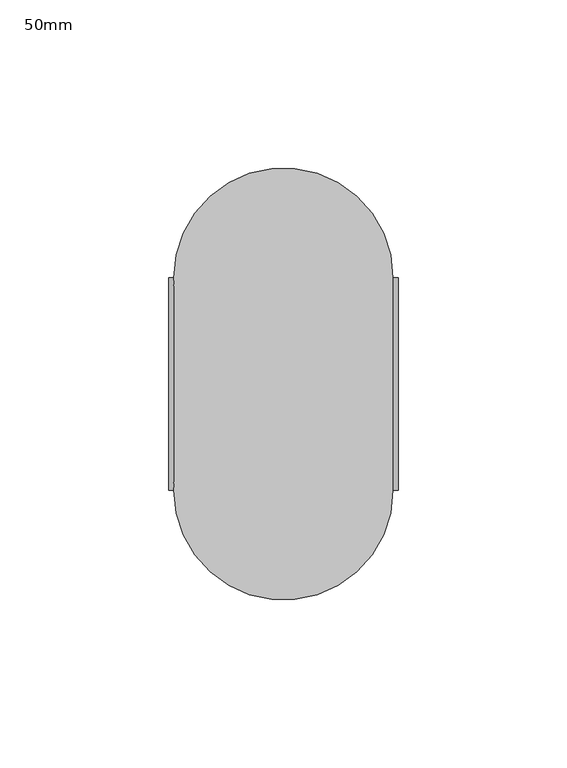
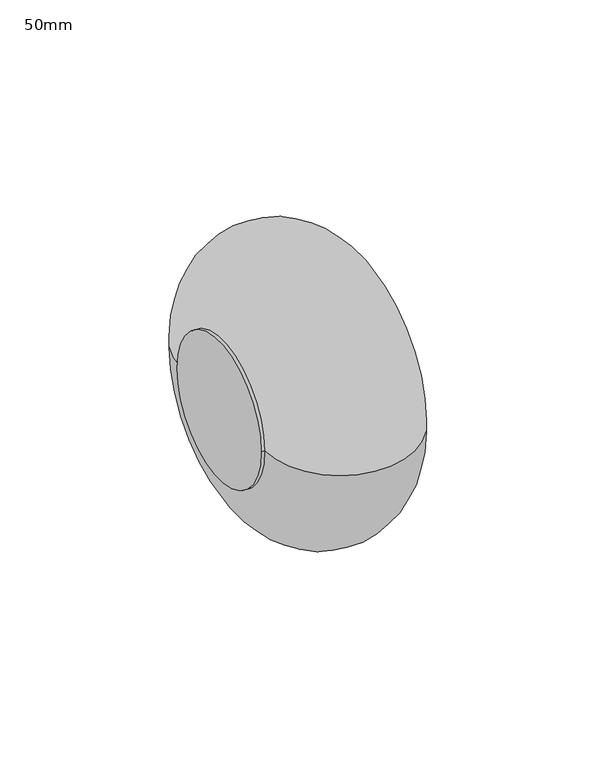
"""IFC4 building model written with IfcOpenShell, lengths in millimetres: pipe fitting geometry, PipeAccessory_HTA_CPVC_LinearExpansionCompensatorPN16 : 50mm."""

import ifcopenshell
import ifcopenshell.guid

model = None  # the IFC model being written
_history = None  # IfcOwnerHistory: only IFC2X3 demands one
_inside = {}  # id of a spatial element -> (the spatial element, [elements in it])
_under = {}  # id of a project, library or spatial element -> (it, [spatial elements below it])
_declared = {}  # id of a project -> (the project, [libraries it declares])
_typed = {}  # id of a type object -> (the type object, [elements of that type])
_made_of = {}  # id of a material, layer set ... -> (it, [elements and type objects made of it])


def new_model(schema):
    """Start an empty IFC model of exactly this schema.

    Asked for "IFC4X3", IfcOpenShell would pick the latest addendum, in which some entities
    have other attributes; the version numbers below select the first issue.
    IFC2X3 requires an IfcOwnerHistory on every rooted entity: one is made here for all.
    """
    global model, _history
    if schema == "IFC4X3":
        model = ifcopenshell.file(schema_version=(4, 3, 0, 0))
    else:
        model = ifcopenshell.file(schema=schema)
    _inside.clear()
    _under.clear()
    _declared.clear()
    _typed.clear()
    _made_of.clear()
    _history = None
    if model.schema == "IFC2X3":
        org = make("IfcOrganization", Name="unknown")
        user = make(
            "IfcPersonAndOrganization",
            ThePerson=make("IfcPerson", FamilyName="unknown"),
            TheOrganization=org,
        )
        app = make(
            "IfcApplication",
            ApplicationDeveloper=org,
            Version="unknown",
            ApplicationFullName="unknown",
            ApplicationIdentifier="unknown",
        )
        _history = make(
            "IfcOwnerHistory",
            OwningUser=user,
            OwningApplication=app,
            ChangeAction="ADDED",
            CreationDate=0,
        )
    return model


def make(cls, **values):
    """One entity of the class cls with the attributes given. An attribute that is None is left unset."""
    return model.create_entity(
        cls, **{name: value for name, value in values.items() if value is not None}
    )


def rooted(cls, **values):
    """An entity with a GlobalId (a new one), such as an element, a storey or a relation."""
    return make(cls, GlobalId=ifcopenshell.guid.new(), OwnerHistory=_history, **values)


def si_unit(unit_type, name, prefix=None):
    """IfcSIUnit, for example si_unit("LENGTHUNIT", "METRE", prefix="MILLI")."""
    return make("IfcSIUnit", UnitType=unit_type, Prefix=prefix, Name=name)


def assignment(units):
    """IfcUnitAssignment: the units of a project."""
    return None if units is None else make("IfcUnitAssignment", Units=units)


def point(xyz):
    """IfcCartesianPoint."""
    return None if xyz is None else make("IfcCartesianPoint", Coordinates=xyz)


def direction(xyz):
    """IfcDirection."""
    return None if xyz is None else make("IfcDirection", DirectionRatios=xyz)


def frame(location, z_axis=None, x_axis=None):
    """IfcAxis2Placement3D, a coordinate frame: its origin and axes. An axis left out is left unset."""
    return make(
        "IfcAxis2Placement3D",
        Location=point(location),
        Axis=direction(z_axis),
        RefDirection=direction(x_axis),
    )


def frame_2d(location, x_axis=None):
    """IfcAxis2Placement2D, a coordinate frame in the plane: its origin and x axis."""
    return make(
        "IfcAxis2Placement2D", Location=point(location), RefDirection=direction(x_axis)
    )


def origin():
    """The frame at (0, 0, 0) with its axes left unset."""
    return frame((0.0, 0.0, 0.0))


def origin_2d():
    """The frame at (0, 0) in the plane with its x axis left unset."""
    return frame_2d((0.0, 0.0))


def place(relative_to, where):
    """IfcLocalPlacement: puts the frame where relative to a parent placement (None: the world)."""
    return make(
        "IfcLocalPlacement", PlacementRelTo=relative_to, RelativePlacement=where
    )


def context(
    kind, dimensions, precision=None, world=None, true_north=None, identifier=None
):
    """IfcGeometricRepresentationContext, for example the 3D "Model" context."""
    return make(
        "IfcGeometricRepresentationContext",
        ContextIdentifier=identifier,
        ContextType=kind,
        CoordinateSpaceDimension=dimensions,
        Precision=precision,
        WorldCoordinateSystem=world,
        TrueNorth=true_north,
    )


def project(units=None, contexts=None):
    """IfcProject with its units and contexts."""
    return rooted(
        "IfcProject",
        Name="project",
        RepresentationContexts=contexts,
        UnitsInContext=assignment(units),
    )


def spatial(cls, under=None, at=None, **own):
    """A site, building, storey or space (cls), placed at a placement, below another one or the project."""
    s = rooted(cls, ObjectPlacement=at, **own)
    if under is not None:
        _under.setdefault(under.id(), (under, []))[1].append(s)
    return s


def circle_curve(where, radius):
    """IfcCircle in the frame where."""
    return make("IfcCircle", Position=where, Radius=radius)


def ellipse_curve(where, semi_axis1, semi_axis2):
    """IfcEllipse in the frame where."""
    return make(
        "IfcEllipse", Position=where, SemiAxis1=semi_axis1, SemiAxis2=semi_axis2
    )


def trimmed(basis, trim1, trim2, sense, master):
    """IfcTrimmedCurve: the piece of a basis curve between two trims."""
    return make(
        "IfcTrimmedCurve",
        BasisCurve=basis,
        Trim1=trim1,
        Trim2=trim2,
        SenseAgreement=sense,
        MasterRepresentation=master,
    )


def segment(curve, same_sense, transition):
    """IfcCompositeCurveSegment."""
    return make(
        "IfcCompositeCurveSegment",
        Transition=transition,
        SameSense=same_sense,
        ParentCurve=curve,
    )


def composite_curve(segments, self_intersect=None):
    """IfcCompositeCurve: segments joined end to end."""
    return make("IfcCompositeCurve", Segments=segments, SelfIntersect=self_intersect)


def outline(outer, holes=None, kind="AREA"):
    """IfcArbitraryClosedProfileDef: a profile drawn as a closed curve; with holes, ...WithVoids."""
    if holes is None:
        return make("IfcArbitraryClosedProfileDef", ProfileType=kind, OuterCurve=outer)
    return make(
        "IfcArbitraryProfileDefWithVoids",
        ProfileType=kind,
        OuterCurve=outer,
        InnerCurves=holes,
    )


def extrude(swept, where, along, depth):
    """IfcExtrudedAreaSolid: the profile swept, set in the frame where, extruded along a direction by depth."""
    return make(
        "IfcExtrudedAreaSolid",
        SweptArea=swept,
        Position=where,
        ExtrudedDirection=direction(along),
        Depth=depth,
    )


def shape(context_of_items, identifier, shape_type, items):
    """IfcShapeRepresentation: the items that make up one representation, for example the "Body"."""
    return make(
        "IfcShapeRepresentation",
        ContextOfItems=context_of_items,
        RepresentationIdentifier=identifier,
        RepresentationType=shape_type,
        Items=items,
    )


def source(mapping_origin, context_of_items, identifier, shape_type, items):
    """IfcRepresentationMap: a shape defined once, which mapped items show again and again."""
    return make(
        "IfcRepresentationMap",
        MappingOrigin=mapping_origin,
        MappedRepresentation=shape(context_of_items, identifier, shape_type, items),
    )


def transform(
    local_origin,
    x_axis=None,
    y_axis=None,
    z_axis=None,
    scale=None,
    scale2=None,
    scale3=None,
    uniform=True,
):
    """IfcCartesianTransformationOperator3D, or its non-uniform kind. x_axis, y_axis, z_axis: its Axis1, 2, 3."""
    if uniform:
        return make(
            "IfcCartesianTransformationOperator3D",
            Axis1=direction(x_axis),
            Axis2=direction(y_axis),
            LocalOrigin=point(local_origin),
            Scale=scale,
            Axis3=direction(z_axis),
        )
    return make(
        "IfcCartesianTransformationOperator3DnonUniform",
        Axis1=direction(x_axis),
        Axis2=direction(y_axis),
        LocalOrigin=point(local_origin),
        Scale=scale,
        Axis3=direction(z_axis),
        Scale2=scale2,
        Scale3=scale3,
    )


def mapped(mapping_source, mapping_target):
    """IfcMappedItem: shows the shape of a source again, moved by a transform."""
    return make(
        "IfcMappedItem", MappingSource=mapping_source, MappingTarget=mapping_target
    )


def made_of(thing, what):
    """Note that an element or type object is made of a material, layer set ...; save() writes the relation."""
    if what is not None:
        _made_of.setdefault(what.id(), (what, []))[1].append(thing)
    return thing


def element(
    cls,
    number,
    at=None,
    inside=None,
    cuts=None,
    type_object=None,
    material=None,
    context=None,
    identifier="Body",
    shape_type=None,
    held_by="IfcProductDefinitionShape",
    body=None,
    shapes=None,
    **own,
):
    """One element of the class cls, such as IfcWall. Its Tag is "e" and its number.

    at: its placement. inside: the storey or other place that contains it. cuts: it is an
    opening in that element (IfcRelVoidsElement). A single representation is given by context,
    identifier, shape_type and body (its items); several are given by shapes. held_by: the class
    of the entity that holds the representations. save() writes the other relations.
    """
    e = rooted(cls, Tag="e%d" % number, ObjectPlacement=at, **own)
    if body is not None:
        shapes = [shape(context, identifier, shape_type, body)]
    if shapes is not None:
        e.Representation = make(held_by, Representations=shapes)
    if inside is not None:
        _inside.setdefault(inside.id(), (inside, []))[1].append(e)
    if cuts is not None:
        rooted(
            "IfcRelVoidsElement", RelatingBuildingElement=cuts, RelatedOpeningElement=e
        )
    if type_object is not None:
        _typed.setdefault(type_object.id(), (type_object, []))[1].append(e)
    return made_of(e, material)


def aggregate(whole, parts):
    """IfcRelAggregates: a whole, such as a stair, and the parts it consists of."""
    return rooted("IfcRelAggregates", RelatingObject=whole, RelatedObjects=parts)


def save(model, path):
    """Write the relations noted so far, then the file.

    IfcRelAggregates (storeys below a building ...), IfcRelContainedInSpatialStructure (elements
    in a storey), IfcRelDefinesByType, IfcRelAssociatesMaterial and IfcRelDeclares: one each for
    every whole, place, type object, material and project.
    """
    for whole, parts in _under.values():
        aggregate(whole, parts)
    for where, things in _inside.values():
        rooted(
            "IfcRelContainedInSpatialStructure",
            RelatedElements=things,
            RelatingStructure=where,
        )
    for kind, things in _typed.values():
        rooted("IfcRelDefinesByType", RelatedObjects=things, RelatingType=kind)
    for what, things in _made_of.values():
        rooted("IfcRelAssociatesMaterial", RelatedObjects=things, RelatingMaterial=what)
    for by, libraries in _declared.values():
        rooted("IfcRelDeclares", RelatingContext=by, RelatedDefinitions=libraries)
    model.write(path)


def plane_surface(at):
    """IfcPlane: the flat surface through the origin of the frame at, square to its z axis."""
    return make("IfcPlane", Position=at)


def revolved_surface(curve, axis_point, axis_direction):
    """IfcSurfaceOfRevolution: the curve turned about the line through axis_point along axis_direction."""
    return make(
        "IfcSurfaceOfRevolution",
        SweptCurve=make("IfcArbitraryOpenProfileDef", ProfileType="CURVE", Curve=curve),
        AxisPosition=make("IfcAxis1Placement", Location=point(axis_point), Axis=direction(axis_direction)),
    )


def advanced_brep(points, edges, surfaces, faces):
    """IfcAdvancedBrep: a solid bounded by faces that lie on surfaces and meet in shared edges.

    An edge is (start, end): straight between two places in points (the first is 0);
    or (start, end, curve); or (start, end, curve, False) where it runs against its curve.
    A face is (place in surfaces, loops), or (place, loops, False) where it looks against
    its surface's normal. A loop lists edges by number (the first is 1), with a minus sign
    where the edge is run from its end to its start. The first loop is the outer one.
    """
    corners = [point(p) for p in points]
    vertices = [make("IfcVertexPoint", VertexGeometry=c) for c in corners]
    made = []
    for start, end, *more in edges:
        made.append(
            make(
                "IfcEdgeCurve",
                EdgeStart=vertices[start],
                EdgeEnd=vertices[end],
                EdgeGeometry=more[0] if more else make("IfcPolyline", Points=[corners[start], corners[end]]),
                SameSense=more[1] if len(more) > 1 else True,
            )
        )
    hull = []
    for where, loops, *sense in faces:
        bounds = []
        for j, loop in enumerate(loops):
            ring = [make("IfcOrientedEdge", EdgeElement=made[abs(k) - 1], Orientation=k > 0) for k in loop]
            bounds.append(
                make(
                    "IfcFaceOuterBound" if j == 0 else "IfcFaceBound",
                    Bound=make("IfcEdgeLoop", EdgeList=ring),
                    Orientation=True,
                )
            )
        hull.append(make("IfcAdvancedFace", Bounds=bounds, FaceSurface=surfaces[where], SameSense=sense[0] if sense else True))
    return make("IfcAdvancedBrep", Outer=make("IfcClosedShell", CfsFaces=hull))


def pipe_fitting_50mm_6b35daae(model_context):
    return source(origin(), model_context, "Body", "SolidModel", [
        extrude(outline(composite_curve([segment(trimmed(circle_curve(origin_2d(), 31.5), [point((-31.5, 0.0))], [point((31.5, 0.0))], False, "CARTESIAN"), True, "CONTINUOUS"), segment(trimmed(circle_curve(origin_2d(), 31.5), [point((31.5, 0.0))], [point((-31.5, 0.0))], False, "CARTESIAN"), True, "CONTINUOUS")], self_intersect=False)), frame((32.5, 0.0, 0.0), z_axis=(1.0, 0.0, 0.0), x_axis=(0.0, 1.0, 0.0)), (0.0, 0.0, 1.0), 1.5),
        extrude(outline(composite_curve([segment(trimmed(circle_curve(origin_2d(), 31.5), [point((-31.5, 0.0))], [point((31.5, 0.0))], False, "CARTESIAN"), True, "CONTINUOUS"), segment(trimmed(circle_curve(origin_2d(), 31.5), [point((31.5, 0.0))], [point((-31.5, 0.0))], False, "CARTESIAN"), True, "CONTINUOUS")], self_intersect=False)), frame((-34.0, 0.0, 0.0), z_axis=(1.0, 0.0, 0.0), x_axis=(0.0, 1.0, 0.0)), (0.0, 0.0, 1.0), 1.5),
        advanced_brep(
        [(-32.5, 0.0, 0.0), (-32.5, 31.5, 0.0), (-32.5, -31.5, 0.0), (32.5, -31.5, 0.0), (32.5, 31.5, 0.0), (32.5, 0.0, 0.0)],
        [
            (0, 1),
            (1, 2, circle_curve(frame((-32.5, 0.0, 0.0), z_axis=(-1.0, 0.0, 0.0), x_axis=(0.0, 1.0, 0.0)), 31.5)),
            (2, 0),
            (2, 1, circle_curve(frame((-32.5, 0.0, 0.0), z_axis=(-1.0, 0.0, 0.0), x_axis=(0.0, 1.0, 0.0)), 31.5)),
            (3, 4, circle_curve(frame((32.5, 0.0, 0.0), z_axis=(1.0, 0.0, 0.0), x_axis=(0.0, 1.0, 0.0)), 31.5)),
            (4, 5),
            (5, 3),
            (4, 3, circle_curve(frame((32.5, 0.0, 0.0), z_axis=(1.0, 0.0, 0.0), x_axis=(0.0, 1.0, 0.0)), 31.5)),
            (1, 4, circle_curve(frame((0.0, 31.5, 0.0), z_axis=(0.0, 0.0, -1.0), x_axis=(1.0, 0.0, 0.0)), 32.5)),
            (3, 2, circle_curve(frame((0.0, -31.5, 0.0), z_axis=(0.0, 0.0, -1.0), x_axis=(1.0, 0.0, 0.0)), 32.5)),
        ],
        [
            plane_surface(frame((-32.5, 0.0, 0.0), z_axis=(-1.0, 0.0, 0.0), x_axis=(0.0, 1.0, 0.0))),
            plane_surface(frame((32.5, 0.0, 0.0), z_axis=(1.0, 0.0, 0.0), x_axis=(0.0, 1.0, 0.0))),
            revolved_surface(trimmed(ellipse_curve(frame((0.0, 31.5, 0.0), z_axis=(0.0, 0.0, 1.0), x_axis=(1.0, 0.0, 0.0)), 32.5, 32.5), [point((32.5, 31.5, 0.0))], [point((-32.5, 31.5, 0.0))], True, "CARTESIAN"), (-32.5, 0.0, 0.0), (-1.0, 0.0, 0.0)),
        ],
        [
            (0, [[1, 2, 3]]),
            (0, [[-3, 4, -1]]),
            (1, [[5, 6, 7]]),
            (1, [[8, -7, -6]]),
            (2, [[-2, 9, -5, 10]]),
            (2, [[-4, -10, -8, -9]]),
        ],
    ),
    ])


if __name__ == "__main__":
    model = new_model("IFC4")
    model_context = context("Model", 3, world=origin())
    ifc_project = project(units=[si_unit("LENGTHUNIT", "METRE", prefix="MILLI")], contexts=[model_context])
    site = spatial("IfcSite", under=ifc_project)
    building = spatial("IfcBuilding", under=site)
    placement = place(None, origin())
    pipe_fitting_50mm_shape = pipe_fitting_50mm_6b35daae(model_context)
    element("IfcPipeFitting", 1, ObjectType="PipeAccessory_HTA_CPVC_LinearExpansionCompensatorPN16 : 50mm", at=placement, inside=building, context=model_context, shape_type="MappedRepresentation", body=[
        mapped(pipe_fitting_50mm_shape, transform((0.0, 0.0, 0.0), x_axis=(1.0, 0.0, 0.0), y_axis=(0.0, 1.0, 0.0), z_axis=(0.0, 0.0, 1.0))),
    ])
    save(model, "model.ifc")
